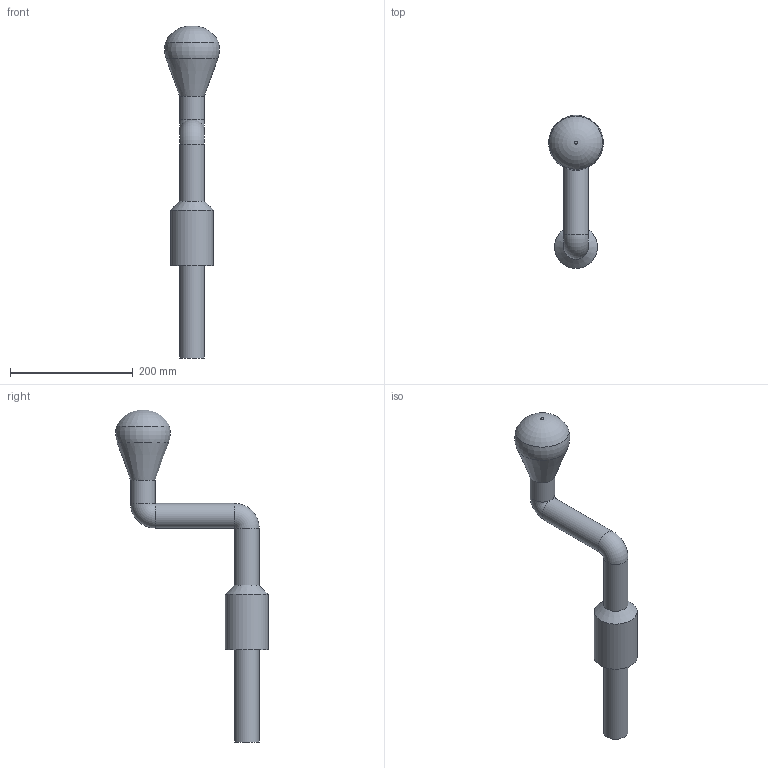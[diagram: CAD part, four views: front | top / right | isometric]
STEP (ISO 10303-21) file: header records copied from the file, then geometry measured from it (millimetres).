
FILE_DESCRIPTION(('STEP AP242'), '1');
FILE_NAME('Ðó÷êà', '', ('UNSPECIFIED'), ('UNSPECIFIED'), 'C3D Converter', 'C3D Toolkit', '');
FILE_SCHEMA(('AP242_MANAGED_MODEL_BASED_3D_ENGINEERING_MIM_LF { 1 0 10303 442 1 1 4 }'));
Length unit declared in the file: millimetre
Bounding box: 89.35 x 248.35 x 540 mm (x, y, z)
Volume: 1423734.9 mm3; surface area: 115119.9 mm2
Topology: 1 solids, 1 shells, 14 faces, 24 edges, 13 vertices
Faces by surface type: cylinder 5, torus 4, plane 3, cone 2
Full cylindrical faces by diameter (mm): 40 x4, 70 x1
Entity records: 314 total; most frequent: DIRECTION 56, CARTESIAN_POINT 41, AXIS2_PLACEMENT_3D 28, EDGE_LOOP 26, ORIENTED_EDGE 26, FACE_OUTER_BOUND 22, ADVANCED_FACE 14, EDGE_CURVE 13
